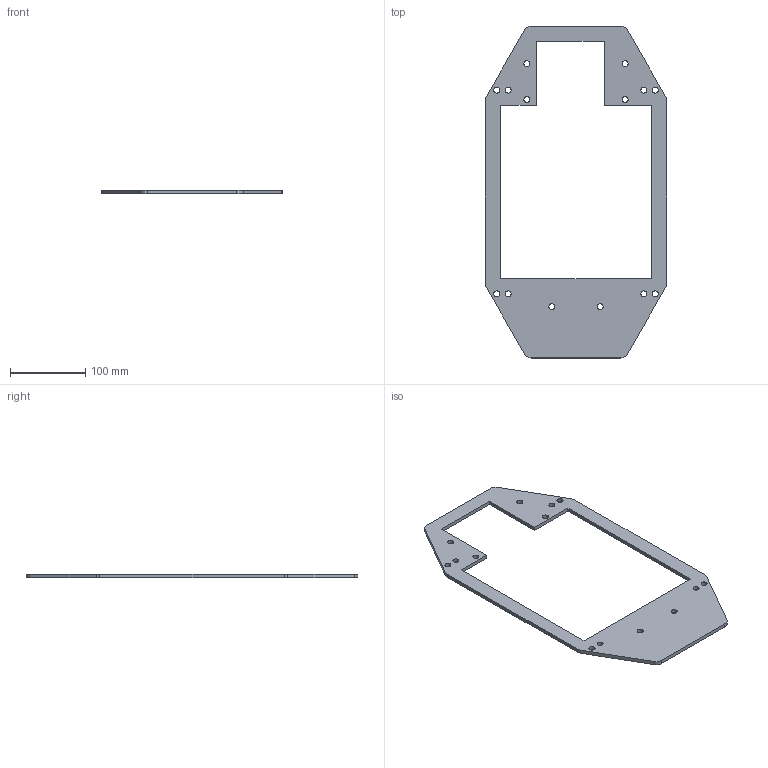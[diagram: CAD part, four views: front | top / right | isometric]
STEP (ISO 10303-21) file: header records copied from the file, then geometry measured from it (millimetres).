
FILE_DESCRIPTION (( 'STEP AP214' ), '1' );
FILE_NAME ('³µµ××ù°å2.STEP', '2024-03-14T13:49:17', ( '' ), ( '' ), 'SwSTEP 2.0', 'SolidWorks 2022', '' );
FILE_SCHEMA (( 'AUTOMOTIVE_DESIGN' ));
Length unit declared in the file: millimetre
Products named in the file (1): 车底座板2
Bounding box: 240 x 440 x 5 mm (x, y, z)
Volume: 203681.8 mm3; surface area: 94352.5 mm2
Topology: 1 solids, 1 shells, 54 faces, 156 edges, 104 vertices
Faces by surface type: cylinder 36, plane 18
Entity records: 2170 total; most frequent: DIRECTION 338, CARTESIAN_POINT 315, ORIENTED_EDGE 312, EDGE_CURVE 156, AXIS2_PLACEMENT_3D 127, VERTEX_POINT 104, LINE 84, VECTOR 84
